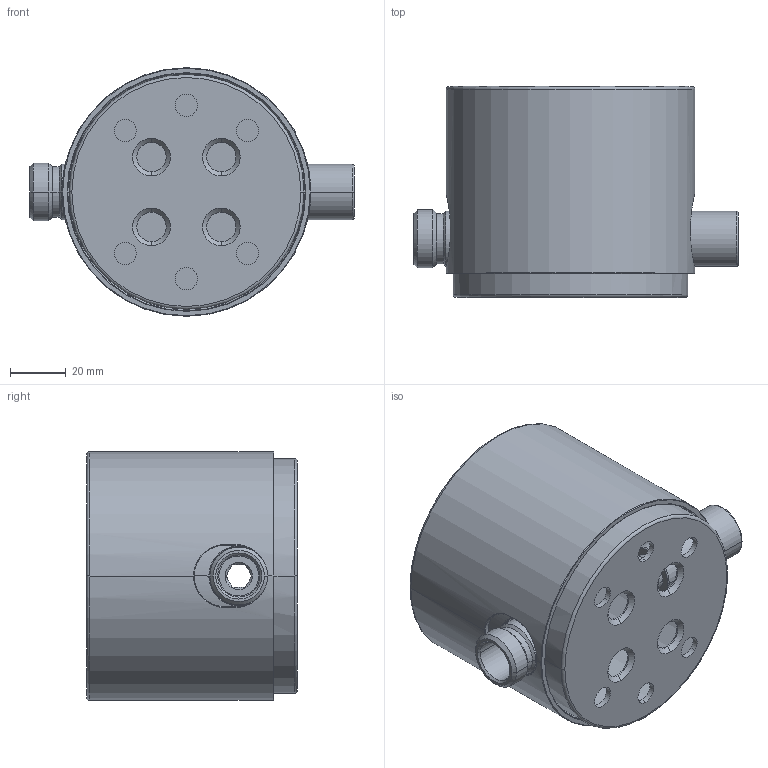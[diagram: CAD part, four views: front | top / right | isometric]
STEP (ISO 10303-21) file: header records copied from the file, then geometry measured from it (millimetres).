
FILE_DESCRIPTION((''),'2;1');
FILE_NAME('F6702_ASM','2023-05-24T09:24:35',('samuelef'),(''),'CREO PARAMETRIC BY PTC INC, 2021184','CREO PARAMETRIC BY PTC INC, 2021184','');
FILE_SCHEMA(('CONFIG_CONTROL_DESIGN'));
Length unit declared in the file: millimetre
Products named in the file (6): 1983IN; 1984IN; 1985IN; 1969IN_L; A1983_ASM; F6702_ASM
Assembly tree (5 placements, depth 3):
  F6702_ASM
    A1983_ASM
      1983IN
      1984IN
      1985IN
      1969IN_L
Bounding box: 116 x 75.5 x 89 mm (x, y, z)
Volume: 98126.9 mm3; surface area: 99189.4 mm2
Topology: 4 solids, 4 shells, 222 faces, 524 edges, 312 vertices
Faces by surface type: cylinder 74, plane 60, cone 44, bspline 24, torus 20
Entity records: 8481 total; most frequent: CARTESIAN_POINT 3287, DIRECTION 1062, ORIENTED_EDGE 1048, EDGE_CURVE 524, AXIS2_PLACEMENT_3D 421, VERTEX_POINT 312, EDGE_LOOP 256, FACE_OUTER_BOUND 222
